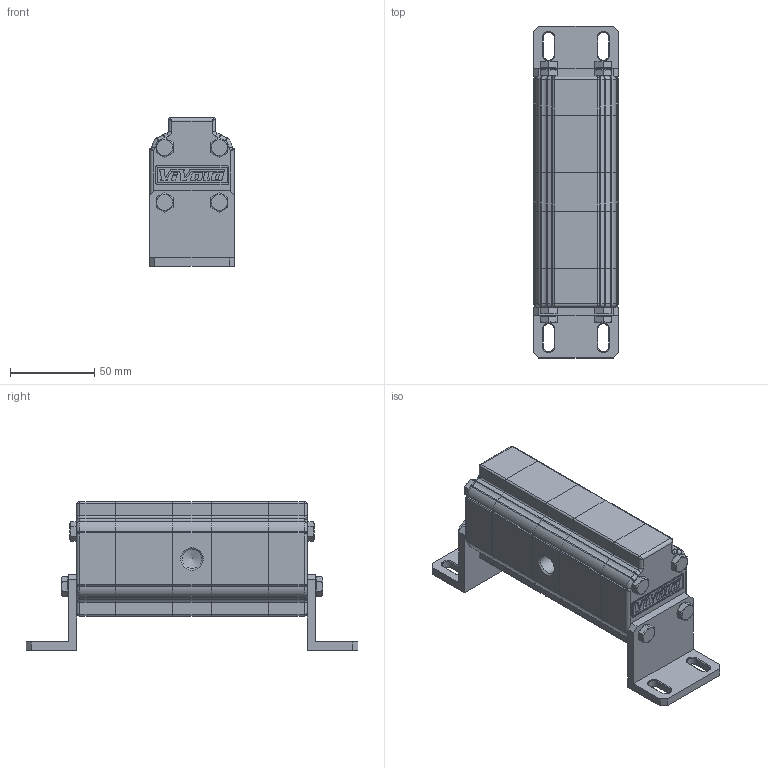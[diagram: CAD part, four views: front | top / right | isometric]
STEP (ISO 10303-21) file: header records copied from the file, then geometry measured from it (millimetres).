
FILE_DESCRIPTION(/* description */ ('Unknown'),/* implementation_level */ '2;1');
FILE_NAME(/* name */ '9RD0206',/* time_stamp */ '2020-04-09T11:05:53+02:00',/* author */ ('Unknown'),/* organization */ ('Unknown'),/* preprocessor_version */ 'ST-DEVELOPER v16.7',/* originating_system */ 'DEX',/* authorisation */ $);
FILE_SCHEMA (('AP242_MANAGED_MODEL_BASED_3D_ENGINEERING_MIM_LF { 1 0 10303 442 1 1 4 }','AUTOMOTIVE_DESIGN {1 0 10303 214 3 1 1}'));
Length unit declared in the file: millimetre
Products named in the file (1): RV-0D
Bounding box: 50 x 197 x 88.25 mm (x, y, z)
Volume: 422884.7 mm3; surface area: 50641.1 mm2
Topology: 1 solids, 1 shells, 766 faces, 2014 edges, 1246 vertices
Faces by surface type: plane 364, cylinder 292, bspline 48, torus 32, cone 30
Full cylindrical faces by diameter (mm): 10 x8, 11.445 x6
Entity records: 30301 total; most frequent: CARTESIAN_POINT 6198, DIRECTION 3994, ORIENTED_EDGE 3872, EDGE_CURVE 1936, AXIS2_PLACEMENT_3D 1435, VERTEX_POINT 1231, LINE 1124, VECTOR 1124
